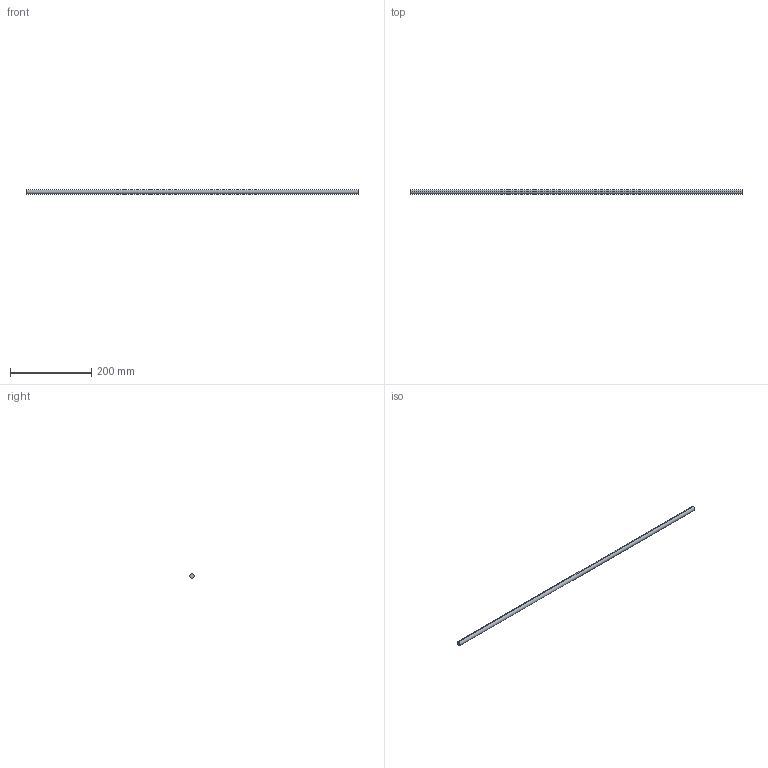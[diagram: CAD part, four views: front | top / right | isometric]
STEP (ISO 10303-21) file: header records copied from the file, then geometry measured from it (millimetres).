
FILE_DESCRIPTION (( 'STEP AP214' ), '1' );
FILE_NAME ('Querreling_Frontblende_Innenlade_KS-16_KAB-900.step', '2010-09-22T15:05:30', ( 'grass' ), ( '' ), 'SwSTEP 2.0', 'SolidWorks 2010', '' );
FILE_SCHEMA (( 'AUTOMOTIVE_DESIGN' ));
Length unit declared in the file: millimetre
Products named in the file (1): Querreling_Frontblende_Innenlade_KS-16_KAB-900
Bounding box: 815 x 11 x 11 mm (x, y, z)
Volume: 77452 mm3; surface area: 28354.4 mm2
Topology: 1 solids, 1 shells, 4 faces, 6 edges, 4 vertices
Faces by surface type: cylinder 2, plane 2
Entity records: 128 total; most frequent: DIRECTION 20, CARTESIAN_POINT 15, ORIENTED_EDGE 12, AXIS2_PLACEMENT_3D 9, EDGE_CURVE 6, CIRCLE 4, FACE_OUTER_BOUND 4, EDGE_LOOP 4
